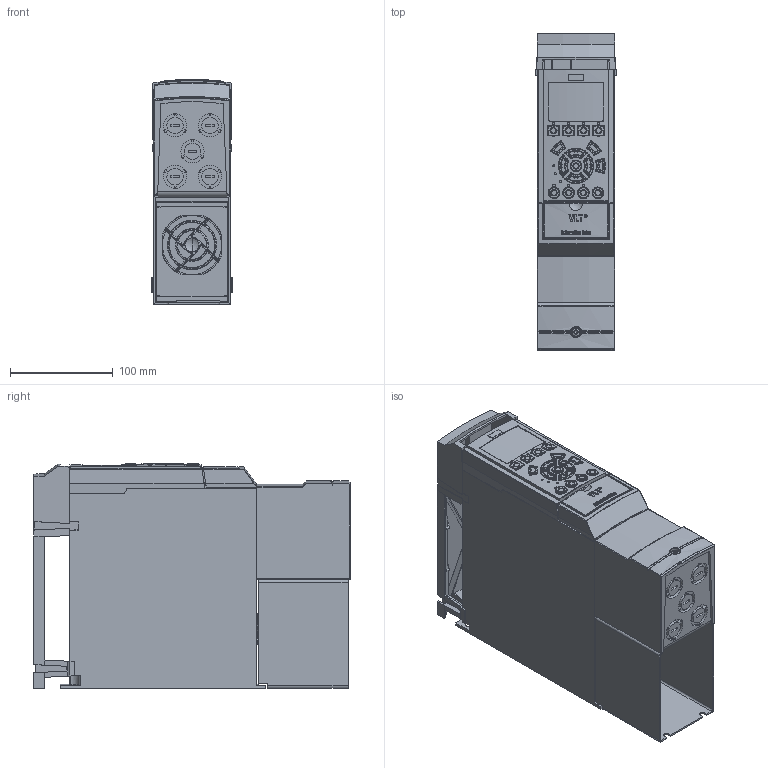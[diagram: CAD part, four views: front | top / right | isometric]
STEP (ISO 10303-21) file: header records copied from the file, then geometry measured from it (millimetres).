
FILE_DESCRIPTION((''),'2;1');
FILE_NAME('DANFOSS-FC300-A1-IP21-B-060','2007-03-20T',('vijayanandg'),('dan Drives A/S'),'PRO/ENGINEER BY PARAMETRIC TECHNOLOGY CORPORATION, 2006200','PRO/ENGINEER BY PARAMETRIC TECHNOLOGY CORPORATION, 2006200','');
FILE_SCHEMA(('CONFIG_CONTROL_DESIGN', 'GEOMETRIC_VALIDATION_PROPERTIES_MIM'));
Products named in the file (1): DANFOSS-FC300-A1-IP21-B-060
Bounding box: 79.22 x 308 x 219.1 mm (x, y, z)
Volume: 3566071.3 mm3; surface area: 342126.4 mm2
Topology: 3 solids, 19 shells, 2401 faces, 6201 edges, 3887 vertices
Faces by surface type: plane 841, cylinder 619, bspline 588, extrusion 174, torus 112, sphere 37, cone 30
Entity records: 131986 total; most frequent: CARTESIAN_POINT 49681, ORIENTED_EDGE 12388, DIRECTION 8518, PRESENTATION_STYLE_ASSIGNMENT 7744, STYLED_ITEM 6258, CURVE_STYLE 6194, EDGE_CURVE 6194, VERTEX_POINT 3887
